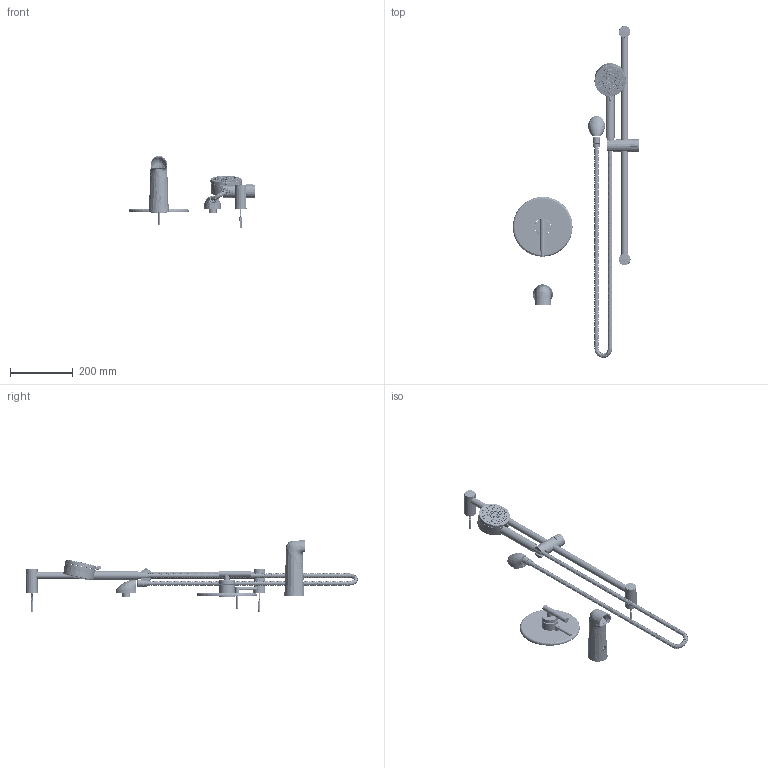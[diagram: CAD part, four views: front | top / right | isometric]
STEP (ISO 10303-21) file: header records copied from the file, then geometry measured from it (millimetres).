
FILE_DESCRIPTION (( 'STEP AP214' ), '1' );
FILE_NAME ('S3594BTRM.STEP', '2025-01-15T06:20:56', ( '' ), ( '' ), 'SwSTEP 2.0', 'SolidWorks 2023', '' );
FILE_SCHEMA (( 'AUTOMOTIVE_DESIGN' ));
Products named in the file (1): S3594BTRM
Bounding box: 402.68 x 1057.66 x 229.04 mm (x, y, z)
Surface area: 432378.1 mm2 (no closed solid volume)
Topology: 0 solids, 192 shells, 1272 faces, 4892 edges, 3688 vertices
Faces by surface type: bspline 374, cylinder 371, cone 206, plane 203, torus 88, sphere 30
Entity records: 268861 total; most frequent: CARTESIAN_POINT 234864, ORIENTED_EDGE 7124, DIRECTION 5004, EDGE_CURVE 4886, VERTEX_POINT 3688, B_SPLINE_CURVE_WITH_KNOTS 2427, AXIS2_PLACEMENT_3D 1939, EDGE_LOOP 1546
